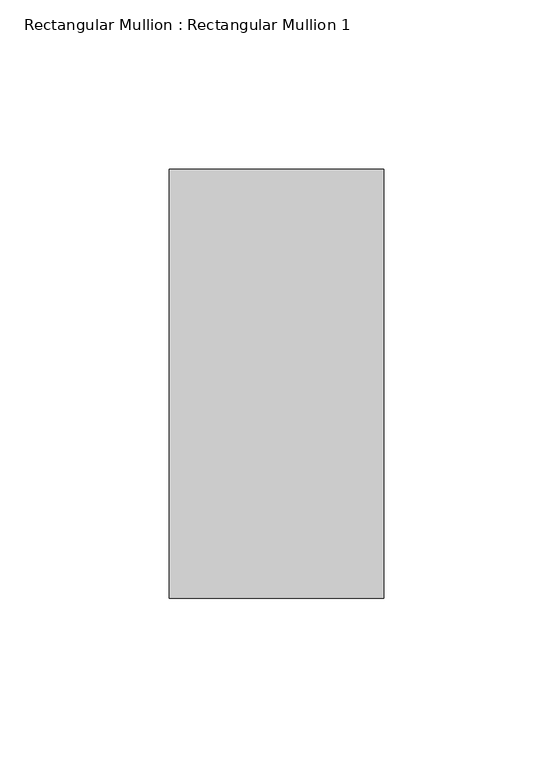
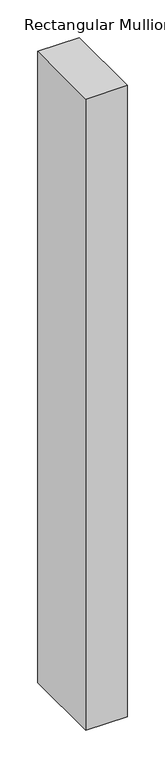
"""IFC4 building model written with IfcOpenShell, lengths in millimetres: member geometry, Rectangular Mullion : Rectangular Mullion 1."""

from ifc_helpers import new_model, si_unit, frame, origin, place, context, project, spatial, polyline, outline, extrude, source, transform, mapped, element, save


def rectangular_mullion_rectangular_mullion_1_1e21fa0c(model_context):
    return source(origin(), model_context, "Body", "SweptSolid", [
        extrude(outline(polyline([(31.75, 63.5), (31.75, -63.5), (-31.75, -63.5), (-31.75, 63.5), (31.75, 63.5)])), frame((0.0, 0.0, -1020.5357142), z_axis=(0.0, 0.0, 1.0), x_axis=(1.0, 0.0, 0.0)), (0.0, 0.0, 1.0), 1020.5357142),
    ])


if __name__ == "__main__":
    model = new_model("IFC4")
    model_context = context("Model", 3, world=origin())
    ifc_project = project(units=[si_unit("LENGTHUNIT", "METRE", prefix="MILLI")], contexts=[model_context])
    site = spatial("IfcSite", under=ifc_project)
    building = spatial("IfcBuilding", under=site)
    placement = place(None, origin())
    rectangular_mullion_rectangular_mullion_1_shape = rectangular_mullion_rectangular_mullion_1_1e21fa0c(model_context)
    element("IfcMember", 1, ObjectType="Rectangular Mullion : Rectangular Mullion 1", at=placement, inside=building, context=model_context, shape_type="MappedRepresentation", body=[
        mapped(rectangular_mullion_rectangular_mullion_1_shape, transform((0.0, 0.0, 0.0), x_axis=(1.0, 0.0, 0.0), y_axis=(0.0, 1.0, 0.0), z_axis=(0.0, 0.0, 1.0))),
    ])
    save(model, "model.ifc")
